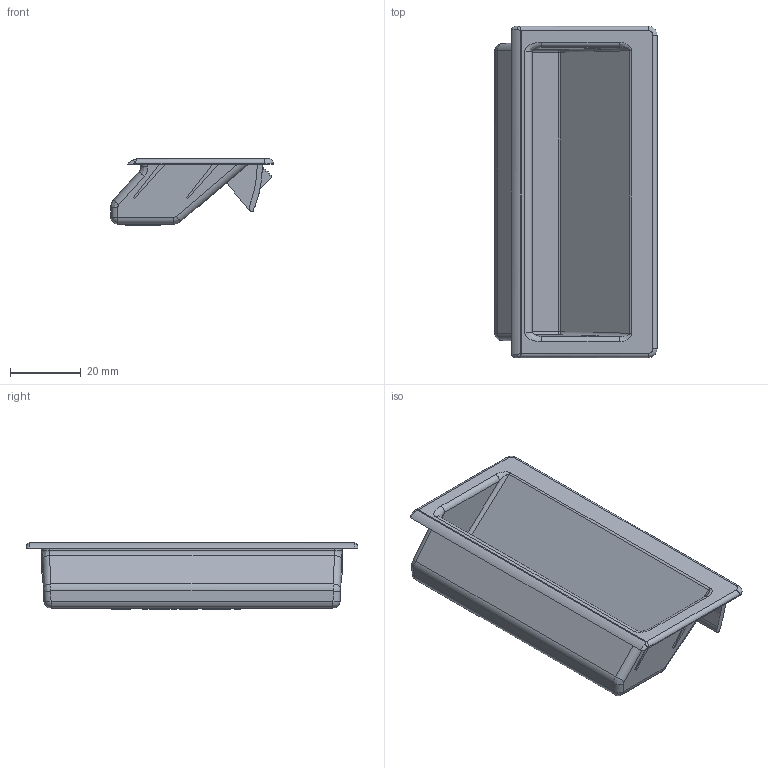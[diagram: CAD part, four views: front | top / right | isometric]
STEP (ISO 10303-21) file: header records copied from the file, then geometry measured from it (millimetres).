
FILE_DESCRIPTION((''),'2;1');
FILE_NAME('3301-02','2015-07-02T',('Administrator'),(''),'PRO/ENGINEER BY PARAMETRIC TECHNOLOGY CORPORATION, 2012230','PRO/ENGINEER BY PARAMETRIC TECHNOLOGY CORPORATION, 2012230','');
FILE_SCHEMA(('CONFIG_CONTROL_DESIGN','GEOMETRIC_VALIDATION_PROPERTIES_MIM'));
Length unit declared in the file: millimetre
Products named in the file (1): 3301-02
Bounding box: 46.01 x 94 x 18.8 mm (x, y, z)
Volume: 13262.4 mm3; surface area: 17972.4 mm2
Topology: 1 solids, 1 shells, 771 faces, 2272 edges, 1539 vertices
Faces by surface type: cylinder 477, plane 270, bspline 12, sphere 8, torus 4
Entity records: 27507 total; most frequent: CARTESIAN_POINT 6162, DIRECTION 4620, ORIENTED_EDGE 4532, EDGE_CURVE 2266, AXIS2_PLACEMENT_3D 1767, VERTEX_POINT 1539, VECTOR 1086, LINE 1086
